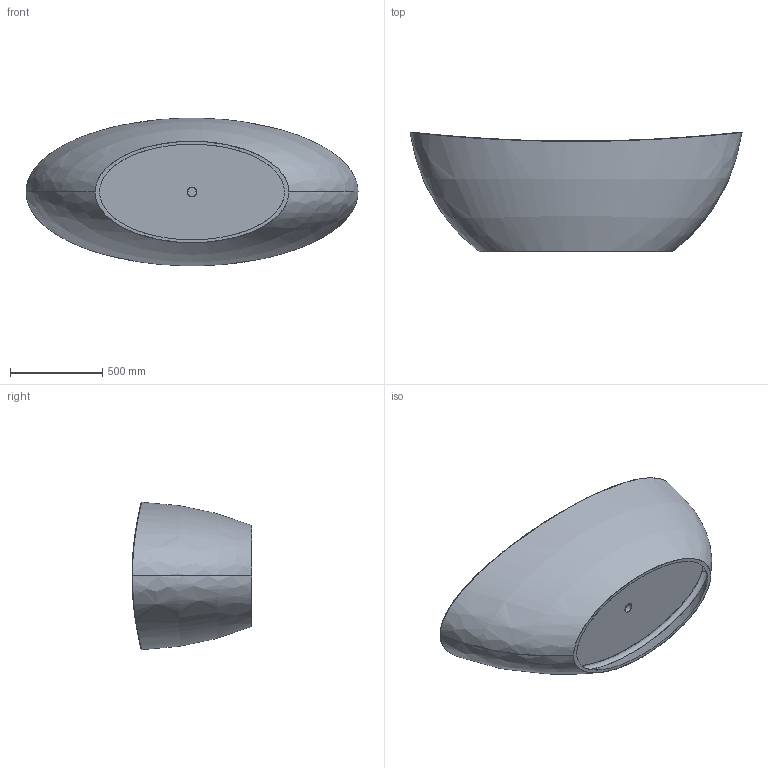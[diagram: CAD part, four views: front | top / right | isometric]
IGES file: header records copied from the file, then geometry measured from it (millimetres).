
Start section: SolidWorks IGES file using analytic representation for surfaces
Global section: file name: D:\Users\M.Szymanski\Desktop\Wanny\Namur\03. do przegrania\WOW_NAMUR_80x180.IGS; native system: SolidWorks 2011; preprocessor: SolidWorks 2011; author: M.Szymanski; date: 180409.135945; units: millimetre
Bounding box: 1799.28 x 649.71 x 799.6 mm (x, y, z)
Surface area: 5747398.7 mm2 (no closed solid volume)
Topology: 0 solids, 0 shells, 43 faces, 1326 edges, 1324 vertices
Faces by surface type: bspline 31, revolution 12
